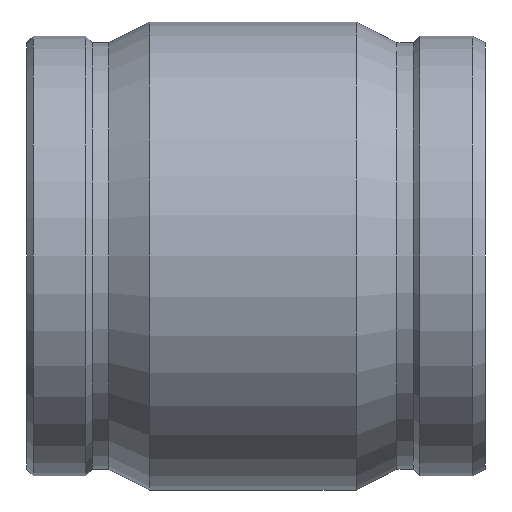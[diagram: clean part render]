
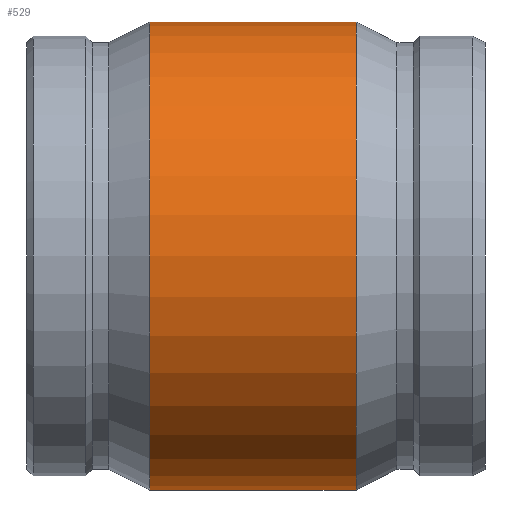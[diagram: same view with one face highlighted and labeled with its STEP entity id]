
A CAD part, front view. The second image highlights one B-rep face of the part: STEP entity #529.
In plain terms, the highlighted cylindrical face has radius 103.505 mm (diameter 207.01 mm), a full revolution.
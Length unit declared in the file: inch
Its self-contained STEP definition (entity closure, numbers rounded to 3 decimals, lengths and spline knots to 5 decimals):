
#50=LINE('',#992,#72);
#72=VECTOR('',#748,4.075);
#89=CYLINDRICAL_SURFACE('',#605,4.075);
#113=FACE_OUTER_BOUND('',#151,.T.);
#151=EDGE_LOOP('',(#421,#422,#423,#424,#425,#426));
#191=CIRCLE('',#603,4.075);
#192=CIRCLE('',#604,4.075);
#193=CIRCLE('',#606,4.075);
#194=CIRCLE('',#607,4.075);
#245=VERTEX_POINT('',#982);
#246=VERTEX_POINT('',#983);
#247=VERTEX_POINT('',#988);
#248=VERTEX_POINT('',#989);
#309=EDGE_CURVE('',#245,#246,#191,.T.);
#310=EDGE_CURVE('',#246,#245,#192,.T.);
#312=EDGE_CURVE('',#247,#248,#193,.T.);
#313=EDGE_CURVE('',#248,#247,#194,.T.);
#314=EDGE_CURVE('',#248,#246,#50,.T.);
#421=ORIENTED_EDGE('',*,*,#312,.F.);
#422=ORIENTED_EDGE('',*,*,#313,.F.);
#423=ORIENTED_EDGE('',*,*,#314,.T.);
#424=ORIENTED_EDGE('',*,*,#310,.T.);
#425=ORIENTED_EDGE('',*,*,#309,.T.);
#426=ORIENTED_EDGE('',*,*,#314,.F.);
#529=ADVANCED_FACE('',(#113),#89,.T.);
#603=AXIS2_PLACEMENT_3D('',#984,#737,#738);
#604=AXIS2_PLACEMENT_3D('',#985,#739,#740);
#605=AXIS2_PLACEMENT_3D('',#987,#742,#743);
#606=AXIS2_PLACEMENT_3D('',#990,#744,#745);
#607=AXIS2_PLACEMENT_3D('',#991,#746,#747);
#737=DIRECTION('center_axis',(1.,0.,0.));
#738=DIRECTION('ref_axis',(0.,0.,-1.));
#739=DIRECTION('center_axis',(1.,0.,0.));
#740=DIRECTION('ref_axis',(0.,0.,-1.));
#742=DIRECTION('center_axis',(1.,0.,0.));
#743=DIRECTION('ref_axis',(0.,1.,0.));
#744=DIRECTION('center_axis',(1.,0.,0.));
#745=DIRECTION('ref_axis',(0.,0.,-1.));
#746=DIRECTION('center_axis',(1.,0.,0.));
#747=DIRECTION('ref_axis',(0.,0.,-1.));
#748=DIRECTION('',(-1.,0.,0.));
#982=CARTESIAN_POINT('',(-1.85275,4.075,0.));
#983=CARTESIAN_POINT('',(-1.85275,-4.075,0.));
#984=CARTESIAN_POINT('Origin',(-1.85275,0.,0.));
#985=CARTESIAN_POINT('Origin',(-1.85275,0.,0.));
#987=CARTESIAN_POINT('Origin',(-0.055,0.,0.));
#988=CARTESIAN_POINT('',(1.74275,4.075,0.));
#989=CARTESIAN_POINT('',(1.74275,-4.075,0.));
#990=CARTESIAN_POINT('Origin',(1.74275,0.,0.));
#991=CARTESIAN_POINT('Origin',(1.74275,0.,0.));
#992=CARTESIAN_POINT('',(-0.055,-4.075,0.));
